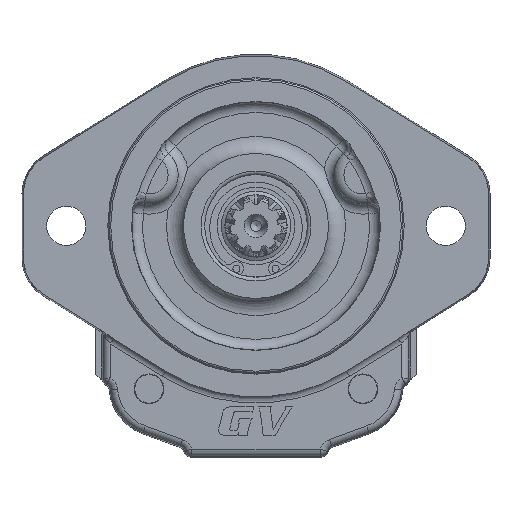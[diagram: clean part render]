
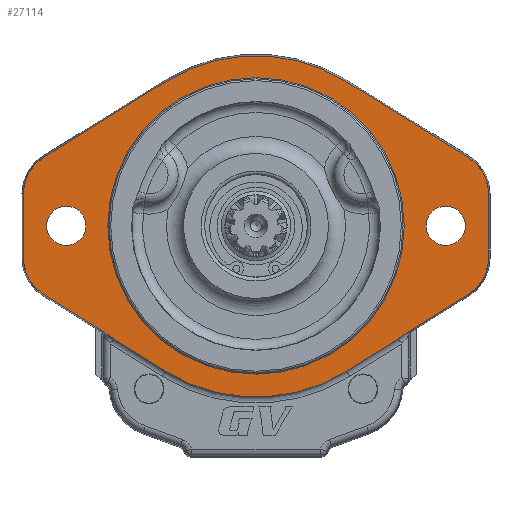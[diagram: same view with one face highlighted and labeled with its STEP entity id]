
A CAD part, front view. The second image highlights one B-rep face of the part: STEP entity #27114.
In plain terms, the highlighted planar face has unit normal (0, -1, 0).
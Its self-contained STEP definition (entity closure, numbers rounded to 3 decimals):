
#168=B_SPLINE_CURVE_WITH_KNOTS('',3,(#36830,#36831,#36832,#36833),
 .UNSPECIFIED.,.F.,.F.,(4,4),(0.,0.003),.UNSPECIFIED.);
#169=B_SPLINE_CURVE_WITH_KNOTS('',3,(#36841,#36842,#36843,#36844),
 .UNSPECIFIED.,.F.,.F.,(4,4),(0.,0.003),.UNSPECIFIED.);
#1484=LINE('',#36820,#2824);
#1485=LINE('',#36824,#2825);
#1486=LINE('',#36828,#2826);
#1487=LINE('',#36835,#2827);
#1488=LINE('',#36839,#2828);
#1489=LINE('',#36846,#2829);
#1490=LINE('',#36850,#2830);
#1491=LINE('',#36854,#2831);
#2824=VECTOR('',#30700,1000.);
#2825=VECTOR('',#30703,1000.);
#2826=VECTOR('',#30706,1000.);
#2827=VECTOR('',#30707,1000.);
#2828=VECTOR('',#30710,1000.);
#2829=VECTOR('',#30711,1000.);
#2830=VECTOR('',#30714,1000.);
#2831=VECTOR('',#30717,1000.);
#4322=ORIENTED_EDGE('',*,*,#10928,.F.);
#4323=ORIENTED_EDGE('',*,*,#10929,.F.);
#4324=ORIENTED_EDGE('',*,*,#10930,.T.);
#4325=ORIENTED_EDGE('',*,*,#10931,.T.);
#4326=ORIENTED_EDGE('',*,*,#10932,.T.);
#4327=ORIENTED_EDGE('',*,*,#10933,.T.);
#4328=ORIENTED_EDGE('',*,*,#10934,.T.);
#4329=ORIENTED_EDGE('',*,*,#10935,.T.);
#4330=ORIENTED_EDGE('',*,*,#10936,.T.);
#4331=ORIENTED_EDGE('',*,*,#10937,.T.);
#4332=ORIENTED_EDGE('',*,*,#10938,.T.);
#4333=ORIENTED_EDGE('',*,*,#10939,.T.);
#4334=ORIENTED_EDGE('',*,*,#10940,.T.);
#4335=ORIENTED_EDGE('',*,*,#10941,.T.);
#4336=ORIENTED_EDGE('',*,*,#10942,.T.);
#4337=ORIENTED_EDGE('',*,*,#10943,.T.);
#4338=ORIENTED_EDGE('',*,*,#10944,.T.);
#4339=ORIENTED_EDGE('',*,*,#10945,.T.);
#4340=ORIENTED_EDGE('',*,*,#10946,.F.);
#10928=EDGE_CURVE('',#14233,#14233,#16371,.T.);
#10929=EDGE_CURVE('',#14234,#14234,#16372,.T.);
#10930=EDGE_CURVE('',#14235,#14236,#16373,.T.);
#10931=EDGE_CURVE('',#14236,#14237,#1484,.F.);
#10932=EDGE_CURVE('',#14237,#14238,#16374,.T.);
#10933=EDGE_CURVE('',#14238,#14239,#1485,.F.);
#10934=EDGE_CURVE('',#14239,#14240,#16375,.T.);
#10935=EDGE_CURVE('',#14240,#14241,#1486,.F.);
#10936=EDGE_CURVE('',#14241,#14242,#168,.T.);
#10937=EDGE_CURVE('',#14242,#14243,#1487,.F.);
#10938=EDGE_CURVE('',#14243,#14244,#16376,.F.);
#10939=EDGE_CURVE('',#14244,#14245,#1488,.T.);
#10940=EDGE_CURVE('',#14245,#14246,#169,.T.);
#10941=EDGE_CURVE('',#14246,#14247,#1489,.F.);
#10942=EDGE_CURVE('',#14247,#14248,#16377,.T.);
#10943=EDGE_CURVE('',#14248,#14249,#1490,.F.);
#10944=EDGE_CURVE('',#14249,#14250,#16378,.T.);
#10945=EDGE_CURVE('',#14250,#14235,#1491,.F.);
#10946=EDGE_CURVE('',#14251,#14251,#16379,.T.);
#14233=VERTEX_POINT('',#36814);
#14234=VERTEX_POINT('',#36816);
#14235=VERTEX_POINT('',#36818);
#14236=VERTEX_POINT('',#36819);
#14237=VERTEX_POINT('',#36821);
#14238=VERTEX_POINT('',#36823);
#14239=VERTEX_POINT('',#36825);
#14240=VERTEX_POINT('',#36827);
#14241=VERTEX_POINT('',#36829);
#14242=VERTEX_POINT('',#36834);
#14243=VERTEX_POINT('',#36836);
#14244=VERTEX_POINT('',#36838);
#14245=VERTEX_POINT('',#36840);
#14246=VERTEX_POINT('',#36845);
#14247=VERTEX_POINT('',#36847);
#14248=VERTEX_POINT('',#36849);
#14249=VERTEX_POINT('',#36851);
#14250=VERTEX_POINT('',#36853);
#14251=VERTEX_POINT('',#36856);
#16371=CIRCLE('',#28264,5.5);
#16372=CIRCLE('',#28265,5.5);
#16373=CIRCLE('',#28266,47.75);
#16374=CIRCLE('',#28267,12.);
#16375=CIRCLE('',#28268,12.);
#16376=CIRCLE('',#28269,47.984);
#16377=CIRCLE('',#28270,12.);
#16378=CIRCLE('',#28271,12.);
#16379=CIRCLE('',#28272,40.982);
#17644=EDGE_LOOP('',(#4322));
#17645=EDGE_LOOP('',(#4323));
#17646=EDGE_LOOP('',(#4324,#4325,#4326,#4327,#4328,#4329,#4330,#4331,#4332,
#4333,#4334,#4335,#4336,#4337,#4338,#4339));
#17647=EDGE_LOOP('',(#4340));
#18969=FACE_BOUND('',#17644,.T.);
#18970=FACE_BOUND('',#17645,.T.);
#18971=FACE_BOUND('',#17646,.T.);
#18972=FACE_BOUND('',#17647,.T.);
#20266=PLANE('',#28263);
#27114=ADVANCED_FACE('',(#18969,#18970,#18971,#18972),#20266,.T.);
#28263=AXIS2_PLACEMENT_3D('',#36812,#30692,#30693);
#28264=AXIS2_PLACEMENT_3D('',#36813,#30694,#30695);
#28265=AXIS2_PLACEMENT_3D('',#36815,#30696,#30697);
#28266=AXIS2_PLACEMENT_3D('',#36817,#30698,#30699);
#28267=AXIS2_PLACEMENT_3D('',#36822,#30701,#30702);
#28268=AXIS2_PLACEMENT_3D('',#36826,#30704,#30705);
#28269=AXIS2_PLACEMENT_3D('',#36837,#30708,#30709);
#28270=AXIS2_PLACEMENT_3D('',#36848,#30712,#30713);
#28271=AXIS2_PLACEMENT_3D('',#36852,#30715,#30716);
#28272=AXIS2_PLACEMENT_3D('',#36855,#30718,#30719);
#30692=DIRECTION('',(0.,-1.,0.));
#30693=DIRECTION('',(0.,0.,1.));
#30694=DIRECTION('',(0.,-1.,0.));
#30695=DIRECTION('',(0.,0.,1.));
#30696=DIRECTION('',(0.,-1.,0.));
#30697=DIRECTION('',(0.,0.,1.));
#30698=DIRECTION('',(0.,-1.,0.));
#30699=DIRECTION('',(0.,0.,1.));
#30700=DIRECTION('',(0.849,0.,0.528));
#30701=DIRECTION('',(0.,-1.,0.));
#30702=DIRECTION('',(0.,0.,1.));
#30703=DIRECTION('',(0.,0.,1.));
#30704=DIRECTION('',(0.,-1.,0.));
#30705=DIRECTION('',(0.,0.,1.));
#30706=DIRECTION('',(-0.849,0.,0.528));
#30707=DIRECTION('',(-0.849,0.,0.528));
#30708=DIRECTION('',(0.,1.,0.));
#30709=DIRECTION('',(0.,0.,-1.));
#30710=DIRECTION('',(0.849,0.,0.528));
#30711=DIRECTION('',(-0.849,0.,-0.528));
#30712=DIRECTION('',(0.,-1.,0.));
#30713=DIRECTION('',(0.,0.,1.));
#30714=DIRECTION('',(0.,0.,-1.));
#30715=DIRECTION('',(0.,-1.,0.));
#30716=DIRECTION('',(0.,0.,1.));
#30717=DIRECTION('',(0.849,0.,-0.528));
#30718=DIRECTION('',(0.,-1.,0.));
#30719=DIRECTION('',(0.,0.,1.));
#36812=CARTESIAN_POINT('',(0.,-19.,56.682));
#36813=CARTESIAN_POINT('',(53.2,-19.,15.7));
#36814=CARTESIAN_POINT('',(53.2,-19.,21.2));
#36815=CARTESIAN_POINT('',(-53.2,-19.,15.7));
#36816=CARTESIAN_POINT('',(-53.2,-19.,21.2));
#36817=CARTESIAN_POINT('',(0.,-19.,15.7));
#36818=CARTESIAN_POINT('',(25.235,-19.,56.237));
#36819=CARTESIAN_POINT('',(-25.235,-19.,56.237));
#36820=CARTESIAN_POINT('',(-32.278,-19.,51.853));
#36821=CARTESIAN_POINT('',(-59.532,-19.,34.887));
#36822=CARTESIAN_POINT('',(-53.19,-19.,24.7));
#36823=CARTESIAN_POINT('',(-65.19,-19.,24.7));
#36824=CARTESIAN_POINT('',(-65.19,-19.,0.));
#36825=CARTESIAN_POINT('',(-65.19,-19.,6.7));
#36826=CARTESIAN_POINT('',(-53.19,-19.,6.7));
#36827=CARTESIAN_POINT('',(-59.532,-19.,-3.487));
#36828=CARTESIAN_POINT('',(-18.191,-19.,-29.222));
#36829=CARTESIAN_POINT('',(-42.374,-19.,-14.168));
#36830=CARTESIAN_POINT('',(-42.374,-19.,-14.168));
#36831=CARTESIAN_POINT('',(-41.52,-19.,-14.7));
#36832=CARTESIAN_POINT('',(-40.805,-19.,-15.421));
#36833=CARTESIAN_POINT('',(-39.951,-19.,-15.952));
#36834=CARTESIAN_POINT('',(-39.951,-19.,-15.952));
#36835=CARTESIAN_POINT('',(-24.034,-19.,-25.861));
#36836=CARTESIAN_POINT('',(-25.358,-19.,-25.036));
#36837=CARTESIAN_POINT('',(0.,-19.,15.7));
#36838=CARTESIAN_POINT('',(25.358,-19.,-25.036));
#36839=CARTESIAN_POINT('',(18.315,-19.,-29.421));
#36840=CARTESIAN_POINT('',(39.951,-19.,-15.952));
#36841=CARTESIAN_POINT('',(39.951,-19.,-15.952));
#36842=CARTESIAN_POINT('',(40.805,-19.,-15.421));
#36843=CARTESIAN_POINT('',(41.52,-19.,-14.7));
#36844=CARTESIAN_POINT('',(42.374,-19.,-14.168));
#36845=CARTESIAN_POINT('',(42.374,-19.,-14.168));
#36846=CARTESIAN_POINT('',(18.191,-19.,-29.222));
#36847=CARTESIAN_POINT('',(59.532,-19.,-3.487));
#36848=CARTESIAN_POINT('',(53.19,-19.,6.7));
#36849=CARTESIAN_POINT('',(65.19,-19.,6.7));
#36850=CARTESIAN_POINT('',(65.19,-19.,0.));
#36851=CARTESIAN_POINT('',(65.19,-19.,24.7));
#36852=CARTESIAN_POINT('',(53.19,-19.,24.7));
#36853=CARTESIAN_POINT('',(59.532,-19.,34.887));
#36854=CARTESIAN_POINT('',(32.278,-19.,51.853));
#36855=CARTESIAN_POINT('',(0.,-19.,15.7));
#36856=CARTESIAN_POINT('',(0.,-19.,56.682));
